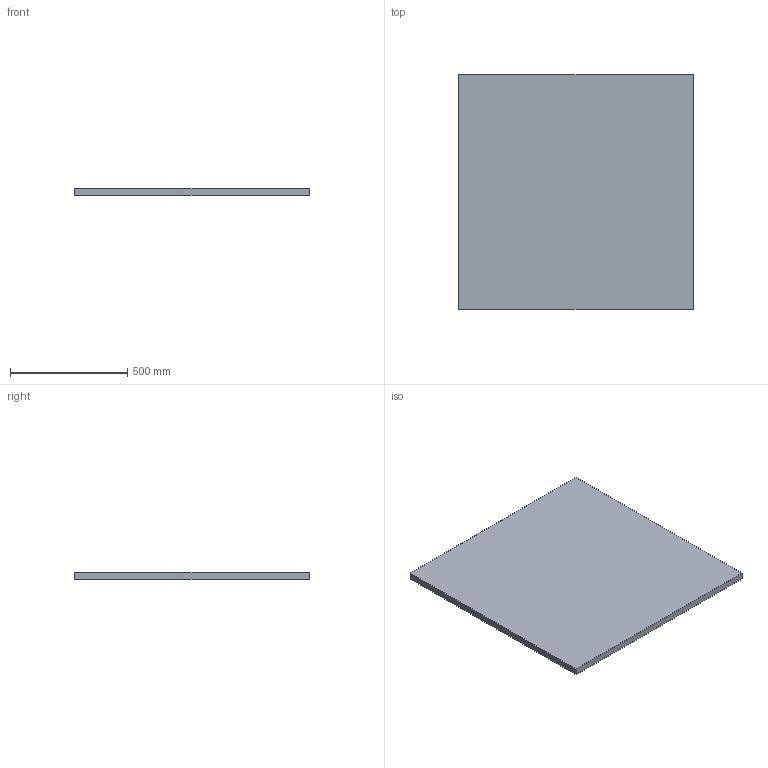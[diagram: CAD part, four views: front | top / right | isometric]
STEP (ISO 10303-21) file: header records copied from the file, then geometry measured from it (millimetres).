
FILE_DESCRIPTION(('FreeCAD Model'),'2;1');
FILE_NAME('Open CASCADE Shape Model','2026-03-31T09:49:25',('FreeCAD'),( 'FreeCAD'),'Open CASCADE STEP processor 7.8','FreeCAD','Unknown');
FILE_SCHEMA(('AUTOMOTIVE_DESIGN { 1 0 10303 214 1 1 1 1 }'));
Length unit declared in the file: millimetre
Products named in the file (1): Open CASCADE STEP translator 7.8 2
Bounding box: 1000 x 1000 x 30 mm (x, y, z)
Volume: 30000000 mm3; surface area: 2120000 mm2
Topology: 1 solids, 1 shells, 6 faces, 12 edges, 8 vertices
Faces by surface type: plane 6
Entity records: 166 total; most frequent: CARTESIAN_POINT 27, DIRECTION 26, ORIENTED_EDGE 24, EDGE_CURVE 12, LINE 12, VECTOR 12, VERTEX_POINT 8, AXIS2_PLACEMENT_3D 7
